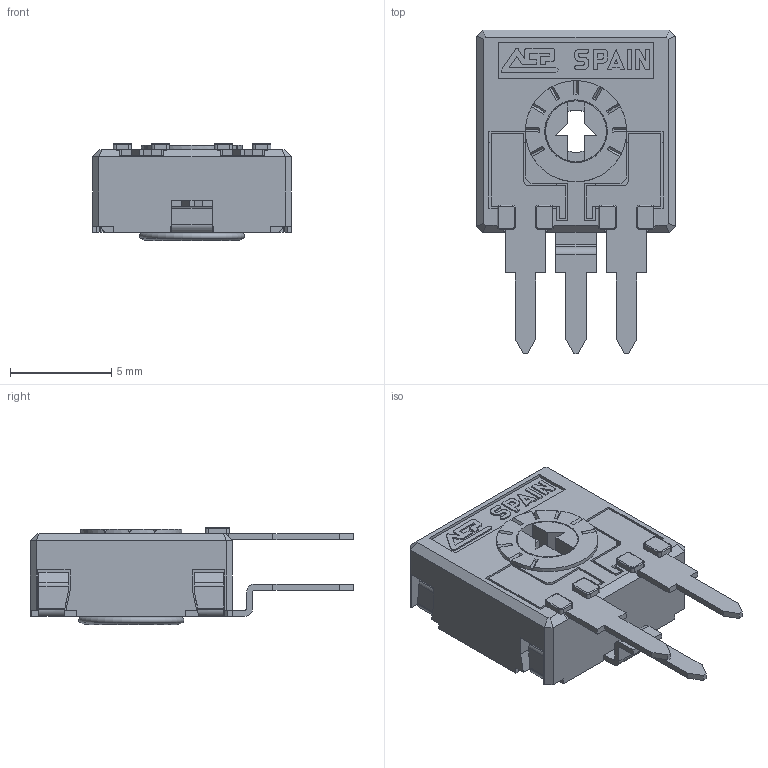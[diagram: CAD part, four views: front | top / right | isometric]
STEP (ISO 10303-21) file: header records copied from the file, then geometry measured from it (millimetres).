
FILE_DESCRIPTION(/* description */ (''),/* implementation_level */ '2;1');
FILE_NAME(/* name */ 'COMCA9PH2,5.stp',/* time_stamp */ '2026-03-30T17:17:10+02:00',/* author */ ('CEM'),/* organization */ (''),/* preprocessor_version */ 'ST-DEVELOPER v20.1',/* originating_system */ 'Autodesk Inventor 2026',/* authorisation */ '');
FILE_SCHEMA (('AUTOMOTIVE_DESIGN { 1 0 10303 214 3 1 1 }'));
Length unit declared in the file: millimetre
Products named in the file (1): COMCA9PH2,5
Bounding box: 9.8 x 16 x 4.8 mm (x, y, z)
Volume: 245.9 mm3; surface area: 839.2 mm2
Topology: 2 solids, 2 shells, 604 faces, 1717 edges, 1098 vertices
Faces by surface type: plane 482, cylinder 87, torus 19, cone 16
Full cylindrical faces by diameter (mm): 3 x1, 3.1 x1, 4 x1, 4.8 x1, 5 x1
Entity records: 19622 total; most frequent: CARTESIAN_POINT 3472, ORIENTED_EDGE 3434, DIRECTION 3190, EDGE_CURVE 1717, LINE 1402, VECTOR 1402, VERTEX_POINT 1098, AXIS2_PLACEMENT_3D 894
